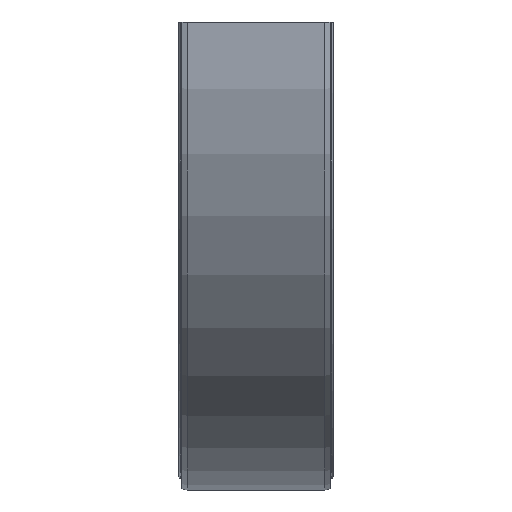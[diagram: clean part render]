
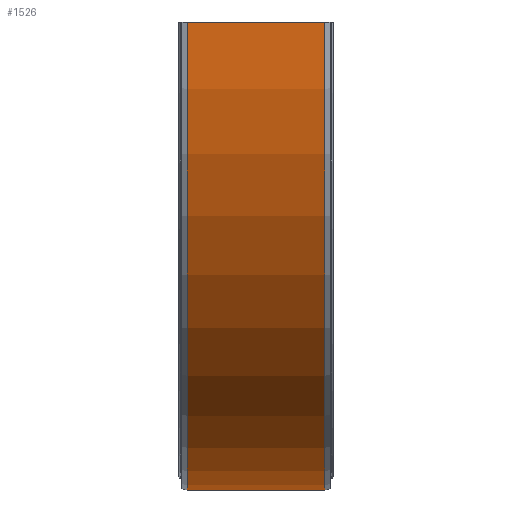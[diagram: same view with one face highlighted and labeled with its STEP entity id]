
A CAD part, left-side view. The second image highlights one B-rep face of the part: STEP entity #1526.
In plain terms, the highlighted cylindrical face has radius 442.5 mm (diameter 885 mm), a partial arc.
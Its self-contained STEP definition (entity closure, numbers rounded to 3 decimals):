
#80=CYLINDRICAL_SURFACE('',#1643,442.5);
#149=FACE_OUTER_BOUND('',#236,.T.);
#236=EDGE_LOOP('',(#1052,#1053,#1054,#1055));
#323=CIRCLE('',#1633,442.5);
#328=CIRCLE('',#1642,442.5);
#400=LINE('',#2215,#526);
#401=LINE('',#2216,#527);
#526=VECTOR('',#1808,10.);
#527=VECTOR('',#1809,10.);
#643=VERTEX_POINT('',#2183);
#644=VERTEX_POINT('',#2185);
#652=VERTEX_POINT('',#2209);
#653=VERTEX_POINT('',#2211);
#799=EDGE_CURVE('',#643,#644,#323,.T.);
#813=EDGE_CURVE('',#652,#653,#328,.T.);
#814=EDGE_CURVE('',#643,#652,#400,.T.);
#815=EDGE_CURVE('',#644,#653,#401,.T.);
#1052=ORIENTED_EDGE('',*,*,#814,.T.);
#1053=ORIENTED_EDGE('',*,*,#813,.T.);
#1054=ORIENTED_EDGE('',*,*,#815,.F.);
#1055=ORIENTED_EDGE('',*,*,#799,.F.);
#1526=ADVANCED_FACE('',(#149),#80,.T.);
#1633=AXIS2_PLACEMENT_3D('',#2186,#1777,#1778);
#1642=AXIS2_PLACEMENT_3D('',#2213,#1804,#1805);
#1643=AXIS2_PLACEMENT_3D('',#2214,#1806,#1807);
#1777=DIRECTION('center_axis',(0.,1.,0.));
#1778=DIRECTION('ref_axis',(0.,0.,-1.));
#1804=DIRECTION('center_axis',(0.,1.,0.));
#1805=DIRECTION('ref_axis',(0.,0.,
-1.));
#1806=DIRECTION('center_axis',(0.,1.,0.));
#1807=DIRECTION('ref_axis',(0.,0.,-1.));
#1808=DIRECTION('',(0.,-1.,0.));
#1809=DIRECTION('',(0.,-1.,0.));
#2183=CARTESIAN_POINT('',(0.,65.,-42.5));
#2185=CARTESIAN_POINT('',(-442.5,65.,400.));
#2186=CARTESIAN_POINT('Origin',(0.,65.,400.));
#2209=CARTESIAN_POINT('',(0.,-65.,-42.5));
#2211=CARTESIAN_POINT('',(-442.5,-65.,400.));
#2213=CARTESIAN_POINT('Origin',(0.,-65.,400.));
#2214=CARTESIAN_POINT('Origin',(0.,0.,400.));
#2215=CARTESIAN_POINT('',(0.,65.,-42.5));
#2216=CARTESIAN_POINT('',(-442.5,65.,400.));
